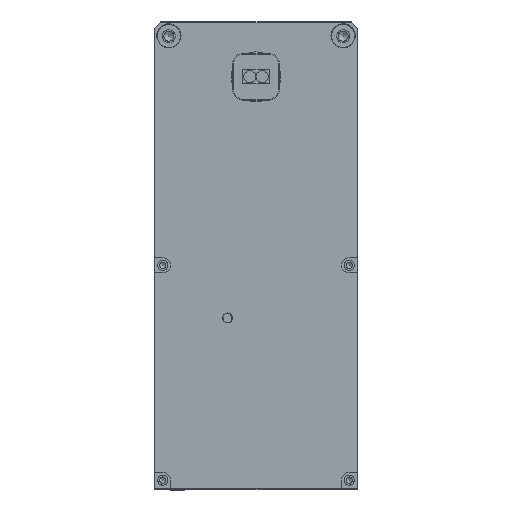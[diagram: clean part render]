
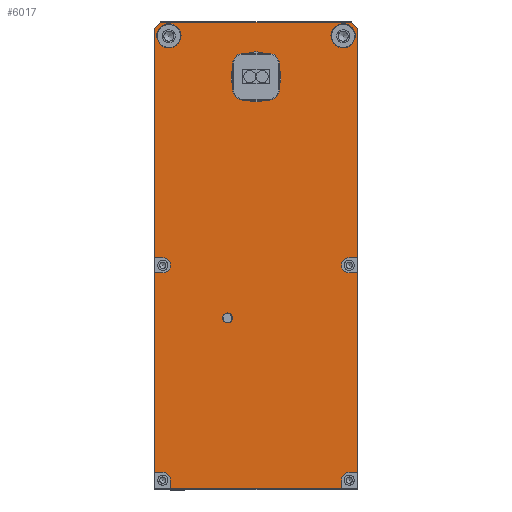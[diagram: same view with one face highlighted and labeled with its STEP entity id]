
A CAD part, top view. The second image highlights one B-rep face of the part: STEP entity #6017.
In plain terms, the highlighted planar face has unit normal (0, 0, 1).
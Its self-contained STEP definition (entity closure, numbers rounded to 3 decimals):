
#5635=CARTESIAN_POINT('',(19.23,-73.,0.0));
#5636=VERTEX_POINT('',#5635);
#5637=CARTESIAN_POINT('',(18.,-73.,0.0));
#5638=DIRECTION('',(0.0,0.0,-1.0));
#5639=DIRECTION('',(1.0,0.0,0.0));
#5640=AXIS2_PLACEMENT_3D('',#5637,#5638,#5639);
#5641=CIRCLE('',#5640,1.23);
#5642=EDGE_CURVE('',#5636,#5636,#5641,.T.);
#5662=CARTESIAN_POINT('',(3.9,-115.,0.0));
#5663=VERTEX_POINT('',#5662);
#5670=CARTESIAN_POINT('',(3.9,-113.,0.0));
#5671=VERTEX_POINT('',#5670);
#5672=CARTESIAN_POINT('',(3.9,-113.,0.0));
#5673=DIRECTION('',(0.0,-1.0,0.0));
#5674=VECTOR('',#5673,2.0);
#5675=LINE('',#5672,#5674);
#5676=EDGE_CURVE('',#5671,#5663,#5675,.T.);
#5702=CARTESIAN_POINT('',(2.,-111.1,0.0));
#5703=VERTEX_POINT('',#5702);
#5710=CARTESIAN_POINT('',(0.,-111.1,0.0));
#5711=VERTEX_POINT('',#5710);
#5712=CARTESIAN_POINT('',(0.,-111.1,0.0));
#5713=DIRECTION('',(1.0,0.0,0.0));
#5714=VECTOR('',#5713,2.);
#5715=LINE('',#5712,#5714);
#5716=EDGE_CURVE('',#5711,#5703,#5715,.T.);
#5742=CARTESIAN_POINT('',(50.0,-111.1,0.0));
#5743=VERTEX_POINT('',#5742);
#5750=CARTESIAN_POINT('',(48.,-111.1,0.0));
#5751=VERTEX_POINT('',#5750);
#5752=CARTESIAN_POINT('',(48.,-111.1,0.0));
#5753=DIRECTION('',(1.0,0.0,0.0));
#5754=VECTOR('',#5753,2.);
#5755=LINE('',#5752,#5754);
#5756=EDGE_CURVE('',#5751,#5743,#5755,.T.);
#5782=CARTESIAN_POINT('',(46.1,-113.0,0.0));
#5783=VERTEX_POINT('',#5782);
#5790=CARTESIAN_POINT('',(46.1,-115.,0.0));
#5791=VERTEX_POINT('',#5790);
#5792=CARTESIAN_POINT('',(46.1,-115.,0.0));
#5793=DIRECTION('',(0.0,1.0,0.0));
#5794=VECTOR('',#5793,2.);
#5795=LINE('',#5792,#5794);
#5796=EDGE_CURVE('',#5791,#5783,#5795,.T.);
#5834=CARTESIAN_POINT('',(48.,-113.0,0.0));
#5835=DIRECTION('',(0.0,0.0,-1.0));
#5836=DIRECTION('',(1.0,0.0,0.0));
#5837=AXIS2_PLACEMENT_3D('',#5834,#5835,#5836);
#5838=CIRCLE('',#5837,1.9);
#5839=EDGE_CURVE('',#5783,#5751,#5838,.T.);
#5852=CARTESIAN_POINT('',(25.0,-57.5,0.0));
#5853=DIRECTION('',(0.0,0.0,1.0));
#5854=DIRECTION('',(1.0,0.0,0.0));
#5855=AXIS2_PLACEMENT_3D('',#5852,#5853,#5854);
#5856=PLANE('',#5855);
#5857=ORIENTED_EDGE('',*,*,#5716,.T.);
#5858=CARTESIAN_POINT('',(2.,-113.,0.0));
#5859=DIRECTION('',(0.0,0.0,-1.0));
#5860=DIRECTION('',(1.0,0.0,0.0));
#5861=AXIS2_PLACEMENT_3D('',#5858,#5859,#5860);
#5862=CIRCLE('',#5861,1.9);
#5863=EDGE_CURVE('',#5703,#5671,#5862,.T.);
#5864=ORIENTED_EDGE('',*,*,#5863,.T.);
#5865=ORIENTED_EDGE('',*,*,#5676,.T.);
#5866=CARTESIAN_POINT('',(46.1,-115.,0.0));
#5867=DIRECTION('',(-1.0,0.0,0.0));
#5868=VECTOR('',#5867,42.2);
#5869=LINE('',#5866,#5868);
#5870=EDGE_CURVE('',#5791,#5663,#5869,.T.);
#5871=ORIENTED_EDGE('',*,*,#5870,.F.);
#5872=ORIENTED_EDGE('',*,*,#5796,.T.);
#5873=ORIENTED_EDGE('',*,*,#5839,.T.);
#5874=ORIENTED_EDGE('',*,*,#5756,.T.);
#5875=CARTESIAN_POINT('',(50.0,-61.9,0.0));
#5876=VERTEX_POINT('',#5875);
#5877=CARTESIAN_POINT('',(50.0,-61.9,0.0));
#5878=DIRECTION('',(0.0,-1.0,0.0));
#5879=VECTOR('',#5878,49.2);
#5880=LINE('',#5877,#5879);
#5881=EDGE_CURVE('',#5876,#5743,#5880,.T.);
#5882=ORIENTED_EDGE('',*,*,#5881,.F.);
#5883=CARTESIAN_POINT('',(48.,-61.9,0.0));
#5884=VERTEX_POINT('',#5883);
#5885=CARTESIAN_POINT('',(50.0,-61.9,0.0));
#5886=DIRECTION('',(-1.0,0.0,0.0));
#5887=VECTOR('',#5886,2.);
#5888=LINE('',#5885,#5887);
#5889=EDGE_CURVE('',#5876,#5884,#5888,.T.);
#5890=ORIENTED_EDGE('',*,*,#5889,.T.);
#5891=CARTESIAN_POINT('',(48.,-58.1,0.0));
#5892=VERTEX_POINT('',#5891);
#5893=CARTESIAN_POINT('',(48.,-60.,0.0));
#5894=DIRECTION('',(0.0,0.0,-1.0));
#5895=DIRECTION('',(1.0,0.0,0.0));
#5896=AXIS2_PLACEMENT_3D('',#5893,#5894,#5895);
#5897=CIRCLE('',#5896,1.9);
#5898=EDGE_CURVE('',#5884,#5892,#5897,.T.);
#5899=ORIENTED_EDGE('',*,*,#5898,.T.);
#5900=CARTESIAN_POINT('',(50.0,-58.1,0.0));
#5901=VERTEX_POINT('',#5900);
#5902=CARTESIAN_POINT('',(48.,-58.1,0.0));
#5903=DIRECTION('',(1.0,0.0,0.0));
#5904=VECTOR('',#5903,2.);
#5905=LINE('',#5902,#5904);
#5906=EDGE_CURVE('',#5892,#5901,#5905,.T.);
#5907=ORIENTED_EDGE('',*,*,#5906,.T.);
#5908=CARTESIAN_POINT('',(50.0,-1.5,0.0));
#5909=VERTEX_POINT('',#5908);
#5910=CARTESIAN_POINT('',(50.0,-1.5,0.0));
#5911=DIRECTION('',(0.0,-1.0,0.0));
#5912=VECTOR('',#5911,56.6);
#5913=LINE('',#5910,#5912);
#5914=EDGE_CURVE('',#5909,#5901,#5913,.T.);
#5915=ORIENTED_EDGE('',*,*,#5914,.F.);
#5916=CARTESIAN_POINT('',(48.5,0.0,0.0));
#5917=VERTEX_POINT('',#5916);
#5918=CARTESIAN_POINT('',(48.5,0.0,0.0));
#5919=DIRECTION('',(0.707,-0.707,0.0));
#5920=VECTOR('',#5919,2.121);
#5921=LINE('',#5918,#5920);
#5922=EDGE_CURVE('',#5917,#5909,#5921,.T.);
#5923=ORIENTED_EDGE('',*,*,#5922,.F.);
#5924=CARTESIAN_POINT('',(1.5,0.0,0.0));
#5925=VERTEX_POINT('',#5924);
#5926=CARTESIAN_POINT('',(1.5,0.0,0.0));
#5927=DIRECTION('',(1.0,0.0,0.0));
#5928=VECTOR('',#5927,47.);
#5929=LINE('',#5926,#5928);
#5930=EDGE_CURVE('',#5925,#5917,#5929,.T.);
#5931=ORIENTED_EDGE('',*,*,#5930,.F.);
#5932=CARTESIAN_POINT('',(0.,-1.5,0.0));
#5933=VERTEX_POINT('',#5932);
#5934=CARTESIAN_POINT('',(0.,-1.5,0.0));
#5935=DIRECTION('',(0.707,0.707,0.0));
#5936=VECTOR('',#5935,2.121);
#5937=LINE('',#5934,#5936);
#5938=EDGE_CURVE('',#5933,#5925,#5937,.T.);
#5939=ORIENTED_EDGE('',*,*,#5938,.F.);
#5940=CARTESIAN_POINT('',(0.,-58.1,0.0));
#5941=VERTEX_POINT('',#5940);
#5942=CARTESIAN_POINT('',(0.,-58.1,0.0));
#5943=DIRECTION('',(0.0,1.0,0.0));
#5944=VECTOR('',#5943,56.6);
#5945=LINE('',#5942,#5944);
#5946=EDGE_CURVE('',#5941,#5933,#5945,.T.);
#5947=ORIENTED_EDGE('',*,*,#5946,.F.);
#5948=CARTESIAN_POINT('',(2.,-58.1,0.0));
#5949=VERTEX_POINT('',#5948);
#5950=CARTESIAN_POINT('',(0.,-58.1,0.0));
#5951=DIRECTION('',(1.0,0.0,0.0));
#5952=VECTOR('',#5951,2.);
#5953=LINE('',#5950,#5952);
#5954=EDGE_CURVE('',#5941,#5949,#5953,.T.);
#5955=ORIENTED_EDGE('',*,*,#5954,.T.);
#5956=CARTESIAN_POINT('',(2.,-61.9,0.0));
#5957=VERTEX_POINT('',#5956);
#5958=CARTESIAN_POINT('',(2.,-60.,0.0));
#5959=DIRECTION('',(0.0,0.0,-1.0));
#5960=DIRECTION('',(1.0,0.0,0.0));
#5961=AXIS2_PLACEMENT_3D('',#5958,#5959,#5960);
#5962=CIRCLE('',#5961,1.9);
#5963=EDGE_CURVE('',#5949,#5957,#5962,.T.);
#5964=ORIENTED_EDGE('',*,*,#5963,.T.);
#5965=CARTESIAN_POINT('',(0.,-61.9,0.0));
#5966=VERTEX_POINT('',#5965);
#5967=CARTESIAN_POINT('',(2.,-61.9,0.0));
#5968=DIRECTION('',(-1.0,0.0,0.0));
#5969=VECTOR('',#5968,2.);
#5970=LINE('',#5967,#5969);
#5971=EDGE_CURVE('',#5957,#5966,#5970,.T.);
#5972=ORIENTED_EDGE('',*,*,#5971,.T.);
#5973=CARTESIAN_POINT('',(0.,-111.1,0.0));
#5974=DIRECTION('',(0.0,1.0,0.0));
#5975=VECTOR('',#5974,49.2);
#5976=LINE('',#5973,#5975);
#5977=EDGE_CURVE('',#5711,#5966,#5976,.T.);
#5978=ORIENTED_EDGE('',*,*,#5977,.F.);
#5979=EDGE_LOOP('',(#5857,#5864,#5865,#5871,#5872,#5873,#5874,#5882,#5890,#5899,#5907,#5915,#5923,#5931,#5939,#5947,#5955,#5964,#5972,#5978));
#5980=FACE_OUTER_BOUND('',#5979,.T.);
#5981=ORIENTED_EDGE('',*,*,#5642,.T.);
#5982=EDGE_LOOP('',(#5981));
#5983=FACE_BOUND('',#5982,.T.);
#5984=CARTESIAN_POINT('',(6.5,-3.4,0.0));
#5985=VERTEX_POINT('',#5984);
#5986=CARTESIAN_POINT('',(3.5,-3.4,0.0));
#5987=DIRECTION('',(0.0,0.0,-1.0));
#5988=DIRECTION('',(1.0,0.0,0.0));
#5989=AXIS2_PLACEMENT_3D('',#5986,#5987,#5988);
#5990=CIRCLE('',#5989,3.);
#5991=EDGE_CURVE('',#5985,#5985,#5990,.T.);
#5992=ORIENTED_EDGE('',*,*,#5991,.T.);
#5993=EDGE_LOOP('',(#5992));
#5994=FACE_BOUND('',#5993,.T.);
#5995=CARTESIAN_POINT('',(49.5,-3.4,0.0));
#5996=VERTEX_POINT('',#5995);
#5997=CARTESIAN_POINT('',(46.5,-3.4,0.0));
#5998=DIRECTION('',(0.0,0.0,-1.0));
#5999=DIRECTION('',(1.0,0.0,0.0));
#6000=AXIS2_PLACEMENT_3D('',#5997,#5998,#5999);
#6001=CIRCLE('',#6000,3.);
#6002=EDGE_CURVE('',#5996,#5996,#6001,.T.);
#6003=ORIENTED_EDGE('',*,*,#6002,.T.);
#6004=EDGE_LOOP('',(#6003));
#6005=FACE_BOUND('',#6004,.T.);
#6006=CARTESIAN_POINT('',(31.15,-13.5,0.0));
#6007=VERTEX_POINT('',#6006);
#6008=CARTESIAN_POINT('',(25.0,-13.5,0.0));
#6009=DIRECTION('',(0.0,0.0,-1.0));
#6010=DIRECTION('',(-1.0,0.0,0.0));
#6011=AXIS2_PLACEMENT_3D('',#6008,#6009,#6010);
#6012=CIRCLE('',#6011,6.15);
#6013=EDGE_CURVE('',#6007,#6007,#6012,.T.);
#6014=ORIENTED_EDGE('',*,*,#6013,.T.);
#6015=EDGE_LOOP('',(#6014));
#6016=FACE_BOUND('',#6015,.T.);
#6017=ADVANCED_FACE('',(#5980,#5983,#5994,#6005,#6016),#5856,.T.);
